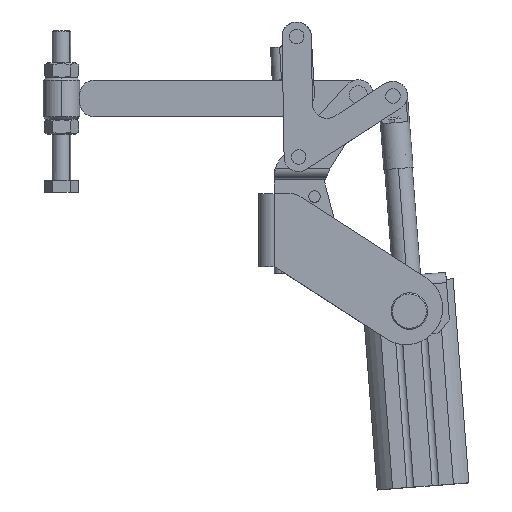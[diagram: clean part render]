
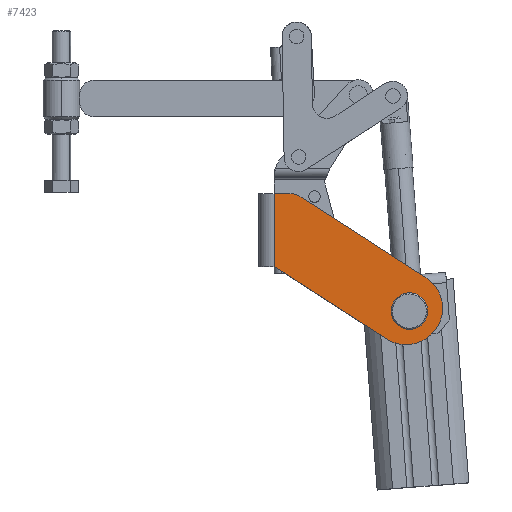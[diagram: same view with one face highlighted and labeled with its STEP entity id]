
A CAD part, top view. The second image highlights one B-rep face of the part: STEP entity #7423.
In plain terms, the highlighted planar face has unit normal (0, 0, 1) as drawn and (1, 0, 0) by its records, which use the part's own axes.
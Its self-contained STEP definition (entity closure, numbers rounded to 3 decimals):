
#319 = CARTESIAN_POINT ( 'NONE',  ( 31., 15.875, -6.75 ) ) ;
#629 = VECTOR ( 'NONE', #1491, 1000. ) ;
#1061 = ORIENTED_EDGE ( 'NONE', *, *, #17390, .T. ) ;
#1491 = DIRECTION ( 'NONE',  ( 0., 0., 1. ) ) ;
#1678 = LINE ( 'NONE', #3151, #629 ) ;
#1982 = DIRECTION ( 'NONE',  ( 0., -1., 0. ) ) ;
#2159 = DIRECTION ( 'NONE',  ( 0., 0., -1. ) ) ;
#2904 = AXIS2_PLACEMENT_3D ( 'NONE', #6806, #18366, #8461 ) ;
#3151 = CARTESIAN_POINT ( 'NONE',  ( 31., 15.875, -80. ) ) ;
#3200 = LINE ( 'NONE', #12166, #14840 ) ;
#3253 = DIRECTION ( 'NONE',  ( 1., 0., 0. ) ) ;
#3316 = ORIENTED_EDGE ( 'NONE', *, *, #15402, .T. ) ;
#3718 = EDGE_CURVE ( 'NONE', #12702, #8488, #12809, .T. ) ;
#3820 = CARTESIAN_POINT ( 'NONE',  ( 31., -35.245, -59.533 ) ) ;
#4178 = EDGE_CURVE ( 'NONE', #17883, #4589, #1678, .T. ) ;
#4589 = VERTEX_POINT ( 'NONE', #20684 ) ;
#5276 = DIRECTION ( 'NONE',  ( 0., -0.542, -0.84 ) ) ;
#5568 = AXIS2_PLACEMENT_3D ( 'NONE', #8708, #12042, #2159 ) ;
#5704 = CARTESIAN_POINT ( 'NONE',  ( 31., -20.66, -72.731 ) ) ;
#5720 = EDGE_LOOP ( 'NONE', ( #20960, #19153, #9783, #13820, #20743, #8194, #3316 ) ) ;
#5746 = VERTEX_POINT ( 'NONE', #5704 ) ;
#6154 = CARTESIAN_POINT ( 'NONE',  ( 31., -47.34, -55.519 ) ) ;
#6806 = CARTESIAN_POINT ( 'NONE',  ( 31., -34., -64.125 ) ) ;
#7037 = VECTOR ( 'NONE', #1982, 1000. ) ;
#7044 = PLANE ( 'NONE',  #5568 ) ;
#7275 = CARTESIAN_POINT ( 'NONE',  ( 31., 5.875, -13.157 ) ) ;
#7423 = ADVANCED_FACE ( 'NONE', ( #18600, #14755 ), #7044, .T. ) ;
#7530 = AXIS2_PLACEMENT_3D ( 'NONE', #7275, #18835, #8939 ) ;
#8194 = ORIENTED_EDGE ( 'NONE', *, *, #11268, .T. ) ;
#8461 = DIRECTION ( 'NONE',  ( 0., 0., -1. ) ) ;
#8488 = VERTEX_POINT ( 'NONE', #10640 ) ;
#8708 = CARTESIAN_POINT ( 'NONE',  ( 31., 15.875, -80. ) ) ;
#8731 = VERTEX_POINT ( 'NONE', #6154 ) ;
#8769 = CARTESIAN_POINT ( 'NONE',  ( 31., 15.875, -13.157 ) ) ;
#8864 = VERTEX_POINT ( 'NONE', #18065 ) ;
#8939 = DIRECTION ( 'NONE',  ( 0., 0., -1. ) ) ;
#9066 = CARTESIAN_POINT ( 'NONE',  ( 31., -35.245, -65.583 ) ) ;
#9155 = EDGE_CURVE ( 'NONE', #11724, #17883, #17791, .T. ) ;
#9783 = ORIENTED_EDGE ( 'NONE', *, *, #4178, .T. ) ;
#9805 = CARTESIAN_POINT ( 'NONE',  ( 31., -35.245, -65.583 ) ) ;
#10128 = EDGE_LOOP ( 'NONE', ( #14906, #1061 ) ) ;
#10640 = CARTESIAN_POINT ( 'NONE',  ( 31., -35.245, -71.633 ) ) ;
#10733 = DIRECTION ( 'NONE',  ( 0., 0., -1. ) ) ;
#11268 = EDGE_CURVE ( 'NONE', #8731, #8864, #12581, .T. ) ;
#11466 = DIRECTION ( 'NONE',  ( 0., 0., -1. ) ) ;
#11724 = VERTEX_POINT ( 'NONE', #21267 ) ;
#11963 = LINE ( 'NONE', #319, #7037 ) ;
#12042 = DIRECTION ( 'NONE',  ( 1., 0., 0. ) ) ;
#12166 = CARTESIAN_POINT ( 'NONE',  ( 31., -15.875, -6.75 ) ) ;
#12581 = CIRCLE ( 'NONE', #2904, 15.875 ) ;
#12702 = VERTEX_POINT ( 'NONE', #3820 ) ;
#12809 = CIRCLE ( 'NONE', #17925, 6.05 ) ;
#13155 = CARTESIAN_POINT ( 'NONE',  ( 31., -34., -64.125 ) ) ;
#13498 = LINE ( 'NONE', #15199, #17351 ) ;
#13820 = ORIENTED_EDGE ( 'NONE', *, *, #18450, .T. ) ;
#13847 = DIRECTION ( 'NONE',  ( 0., -0.542, -0.84 ) ) ;
#14755 = FACE_OUTER_BOUND ( 'NONE', #5720, .T. ) ;
#14824 = DIRECTION ( 'NONE',  ( 0., 0., -1. ) ) ;
#14840 = VECTOR ( 'NONE', #13847, 1000. ) ;
#14906 = ORIENTED_EDGE ( 'NONE', *, *, #3718, .T. ) ;
#15199 = CARTESIAN_POINT ( 'NONE',  ( 31., -13.233, -61.22 ) ) ;
#15374 = CIRCLE ( 'NONE', #18939, 6.05 ) ;
#15402 = EDGE_CURVE ( 'NONE', #8864, #5746, #19389, .T. ) ;
#16038 = VERTEX_POINT ( 'NONE', #19676 ) ;
#17351 = VECTOR ( 'NONE', #5276, 1000. ) ;
#17390 = EDGE_CURVE ( 'NONE', #8488, #12702, #15374, .T. ) ;
#17791 = CIRCLE ( 'NONE', #7530, 10. ) ;
#17883 = VERTEX_POINT ( 'NONE', #8769 ) ;
#17916 = EDGE_CURVE ( 'NONE', #16038, #8731, #3200, .T. ) ;
#17925 = AXIS2_PLACEMENT_3D ( 'NONE', #9805, #21352, #11466 ) ;
#18065 = CARTESIAN_POINT ( 'NONE',  ( 31., -34., -80. ) ) ;
#18366 = DIRECTION ( 'NONE',  ( 1., 0., 0. ) ) ;
#18450 = EDGE_CURVE ( 'NONE', #4589, #16038, #11963, .T. ) ;
#18600 = FACE_BOUND ( 'NONE', #10128, .T. ) ;
#18835 = DIRECTION ( 'NONE',  ( 1., 0., 0. ) ) ;
#18939 = AXIS2_PLACEMENT_3D ( 'NONE', #9066, #20618, #10733 ) ;
#19153 = ORIENTED_EDGE ( 'NONE', *, *, #9155, .T. ) ;
#19288 = AXIS2_PLACEMENT_3D ( 'NONE', #13155, #3253, #14824 ) ;
#19389 = CIRCLE ( 'NONE', #19288, 15.875 ) ;
#19393 = EDGE_CURVE ( 'NONE', #11724, #5746, #13498, .T. ) ;
#19676 = CARTESIAN_POINT ( 'NONE',  ( 31., -15.875, -6.75 ) ) ;
#20618 = DIRECTION ( 'NONE',  ( -1., 0., 0. ) ) ;
#20684 = CARTESIAN_POINT ( 'NONE',  ( 31., 15.875, -6.75 ) ) ;
#20743 = ORIENTED_EDGE ( 'NONE', *, *, #17916, .T. ) ;
#20960 = ORIENTED_EDGE ( 'NONE', *, *, #19393, .F. ) ;
#21267 = CARTESIAN_POINT ( 'NONE',  ( 31., 14.278, -18.579 ) ) ;
#21352 = DIRECTION ( 'NONE',  ( -1., 0., 0. ) ) ;
